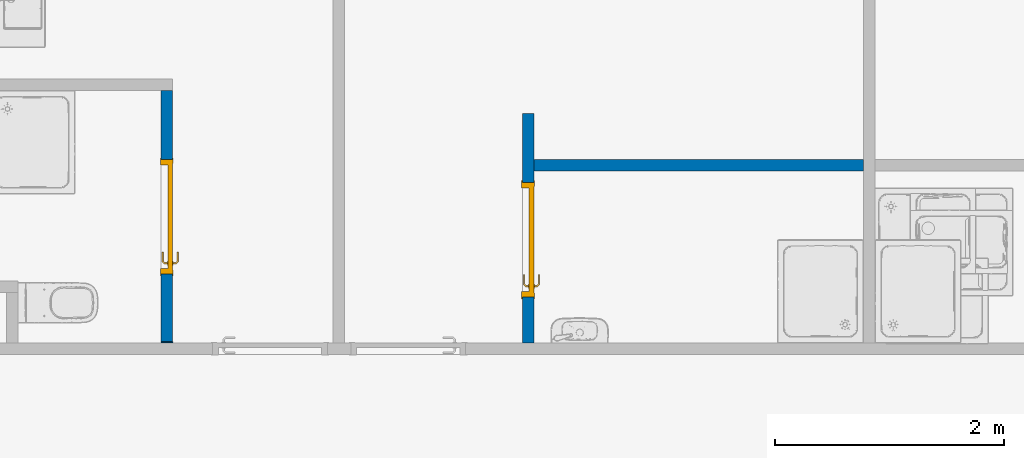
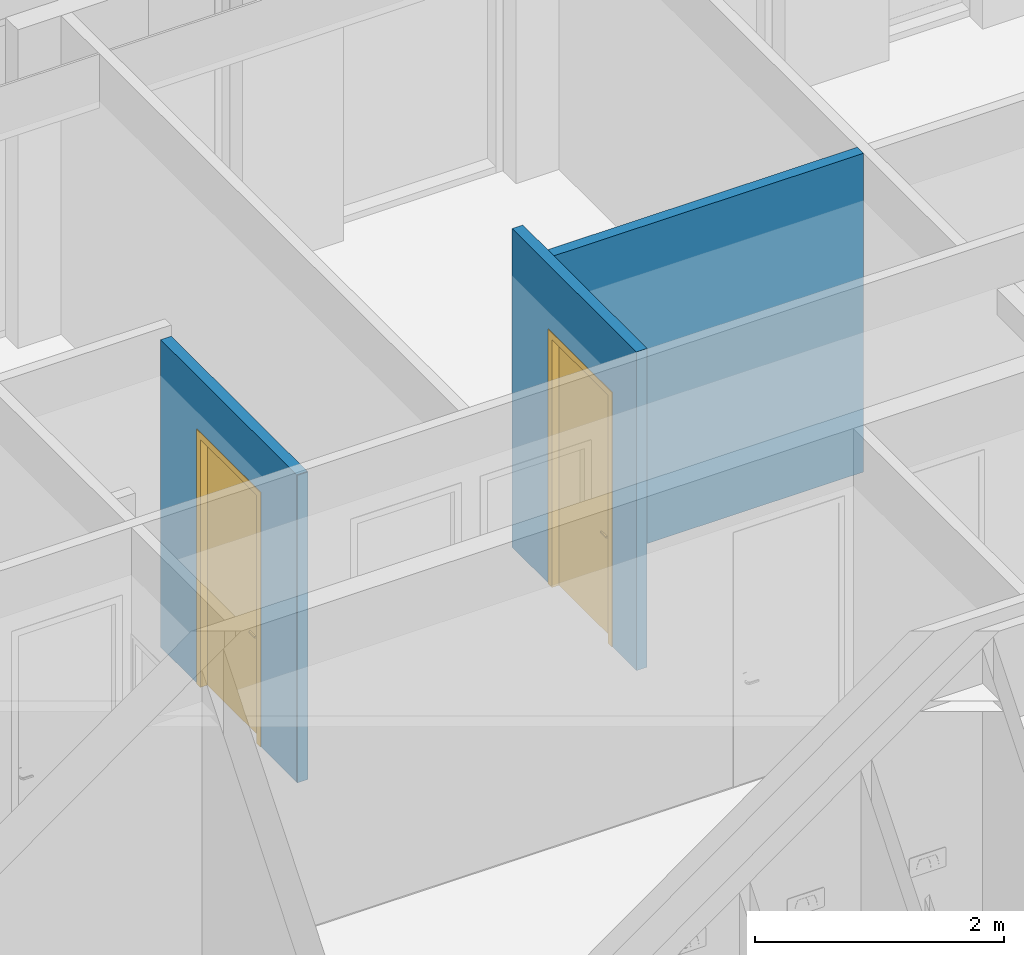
# One storey, part 123 of 240: 4 walls, 2 doors, 2 openings.
"""IFC2X3 building model written with IfcOpenShell, lengths in centimetres."""

from ifc_helpers import new_model, entity, si_unit, converted_unit, derived_unit, direction, frame, frame_2d, origin, place, context, subcontext, project, spatial, polyline, rectangle, extrude, clip, bounded_halfspace, faceted_brep, source, transform, mapped, material, material_list, layer, layer_set, layer_usage, type_object, type_shapes, element, fill, save


model = new_model("IFC2X3")

# Units and contexts
model_context = context("Model", 3, precision=0.001, world=origin(), true_north=direction((6.12303176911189e-17, 1.0)))
body_context = subcontext(model_context, "Body", "Model", "MODEL_VIEW")
ifc_project = project(units=[si_unit("LENGTHUNIT", "METRE", prefix="CENTI"), si_unit("AREAUNIT", "SQUARE_METRE"), si_unit("VOLUMEUNIT", "CUBIC_METRE"), converted_unit("PLANEANGLEUNIT", "DEGREE", entity("IfcRatioMeasure", 0.0174532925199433), si_unit("PLANEANGLEUNIT", "RADIAN"), dimensions=[0, 0, 0, 0, 0, 0, 0]), si_unit("MASSUNIT", "GRAM", prefix="KILO"), derived_unit("MASSDENSITYUNIT", [(si_unit("MASSUNIT", "GRAM", prefix="KILO"), 1), (si_unit("LENGTHUNIT", "METRE"), -3)]), si_unit("TIMEUNIT", "SECOND"), si_unit("FREQUENCYUNIT", "HERTZ"), si_unit("THERMODYNAMICTEMPERATUREUNIT", "DEGREE_CELSIUS"), derived_unit("THERMALTRANSMITTANCEUNIT", [(si_unit("MASSUNIT", "GRAM", prefix="KILO"), 1), (si_unit("THERMODYNAMICTEMPERATUREUNIT", "KELVIN"), -1), (si_unit("TIMEUNIT", "SECOND"), -3)]), derived_unit("VOLUMETRICFLOWRATEUNIT", [(si_unit("LENGTHUNIT", "METRE"), 3), (si_unit("TIMEUNIT", "SECOND"), -1)]), si_unit("ELECTRICCURRENTUNIT", "AMPERE"), si_unit("ELECTRICVOLTAGEUNIT", "VOLT"), si_unit("POWERUNIT", "WATT"), si_unit("FORCEUNIT", "NEWTON", prefix="KILO"), si_unit("ILLUMINANCEUNIT", "LUX"), si_unit("LUMINOUSFLUXUNIT", "LUMEN"), si_unit("LUMINOUSINTENSITYUNIT", "CANDELA"), derived_unit("USERDEFINED", [(si_unit("MASSUNIT", "GRAM", prefix="KILO"), -1), (si_unit("LENGTHUNIT", "METRE"), -2), (si_unit("TIMEUNIT", "SECOND"), 3), (si_unit("LUMINOUSFLUXUNIT", "LUMEN"), 1)]), derived_unit("LINEARVELOCITYUNIT", [(si_unit("LENGTHUNIT", "METRE"), 1), (si_unit("TIMEUNIT", "SECOND"), -1)]), si_unit("PRESSUREUNIT", "PASCAL"), derived_unit("USERDEFINED", [(si_unit("LENGTHUNIT", "METRE"), -2), (si_unit("MASSUNIT", "GRAM", prefix="KILO"), 1), (si_unit("TIMEUNIT", "SECOND"), -2)])], contexts=[model_context])

# Site, building, storey
site_placement = place(None, frame((-2781.94577612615, 7442.24238424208, 0.0)))
site = spatial("IfcSite", under=ifc_project, at=site_placement, Name="Default", CompositionType="ELEMENT")
building_placement = place(site_placement, origin())
building = spatial("IfcBuilding", under=site, at=building_placement, CompositionType="ELEMENT")
storey_placement = place(building_placement, origin())
storey = spatial("IfcBuildingStorey", under=building, at=storey_placement, Name="N00 - COO", CompositionType="ELEMENT", Elevation=0.0)

# Wall, opening, door
ifc_material_1 = material(Name="01 - Enduit/Plâtre")
ifc_layer_1 = layer(ifc_material_1, 1.3)
ifc_material_2 = material(Name="00 - Isolant")
ifc_layer_2 = layer(ifc_material_2, 7.4)
ifc_layer_3 = layer(ifc_material_1, 1.3)
ifc_layer_set = layer_set([ifc_layer_1, ifc_layer_2, ifc_layer_3], Name="Mur de base:06 - cloisons - Ba13 10cm")
ifc_layer_usage_1 = layer_usage(ifc_layer_set, "AXIS2", "NEGATIVE", 5.0)
wall_type = type_object("IfcWallType", Name="Mur de base:06 - cloisons - Ba13 10cm", PredefinedType="STANDARD", material=ifc_layer_set)
wall_1_placement = place(building_placement, frame((-9499.49987766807, -1530.0, 0.0), z_axis=(0.0, 0.0, 1.0), x_axis=(0.0, -1.0, 0.0)))
wall_1 = element("IfcWallStandardCase", 1, at=wall_1_placement, inside=storey, type_object=wall_type, material=ifc_layer_usage_1, Name="Mur de base:06 - cloisons - Ba13 10cm", ObjectType="Mur de base:06 - cloisons - Ba13 10cm", context=body_context, shape_type="SweptSolid", body=[
    extrude(rectangle(XDim=219.0, YDim=10.0000000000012, at=frame_2d((109.5, 0.0), x_axis=(-1.0, 0.0))), origin(), (0.0, 0.0, 1.0), 302.0),
])
opening_1_placement = place(wall_1_placement, frame((60.0, -5.0, 0.0)))
opening_1 = element("IfcOpeningElement", 2, at=opening_1_placement, cuts=wall_1, Name="Int. Simple:PP simple (0.93m x 2.50m):1", ObjectType="Opening", context=body_context, shape_type="SweptSolid", body=[
    extrude(rectangle(XDim=248.500000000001, YDim=99.9999999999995, at=frame_2d((124.250000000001, 49.9999999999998), x_axis=(1.0, 0.0))), frame((0.0, 0.0, 0.0), z_axis=(0.0, 1.0, 0.0), x_axis=(0.0, 0.0, 1.0)), (0.0, 0.0, 1.0), 10.0),
])
ifc_material_3 = material(Name="Finition Peinture - Blanc satiné")
ifc_material_4 = material(Name="Bois - Panneau de porte")
ifc_material_5 = material(Name="Bois - Cadre de porte")
ifc_material_list_1 = material_list([ifc_material_3, ifc_material_4, ifc_material_5])
ifc_material_list_2 = material_list([ifc_material_3, ifc_material_4, ifc_material_5])
door_style = type_object("IfcDoorStyle", Name="PP simple (0.93m x 2.50m)", ConstructionType="NOTDEFINED", OperationType="SINGLE_SWING_LEFT", ParameterTakesPrecedence=False, Sizeable=False, material=ifc_material_list_2)
shared_shape = source(origin(), body_context, "Body", "Brep", [
    faceted_brep([(10.5352761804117, -0.500000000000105, 86.6003983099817), (11.5000000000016, -0.500000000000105, 87.0), (11.5000000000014, -0.500000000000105, 108.0), (10.5352761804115, -0.500000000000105, 108.399601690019), (9.50000000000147, -0.500000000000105, 108.535898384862), (8.46472381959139, -0.500000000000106, 108.399601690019), (7.50000000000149, -0.500000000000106, 108.0), (7.50000000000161, -0.500000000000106, 87.0), (8.46472381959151, -0.500000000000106, 86.6003983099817), (9.50000000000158, -0.500000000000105, 86.464101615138), (10.5352761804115, 0.0, 108.399601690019), (11.5000000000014, 0.0, 108.0), (11.5000000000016, 0.0, 87.0), (10.5352761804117, 0.0, 86.6003983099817), (9.50000000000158, 0.0, 86.464101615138), (8.46472381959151, 0.0, 86.6003983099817), (7.50000000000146, 0.0, 87.0), (7.50000000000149, 0.0, 108.0), (8.46472381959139, 0.0, 108.399601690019), (9.50000000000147, 0.0, 108.535898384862)], [[[0, 1, 2, 3, 4, 5, 6, 7, 8, 9]], [[10, 11, 12, 13, 14, 15, 16, 17, 18, 19]], [[16, 15, 8, 7]], [[8, 15, 14, 9]], [[14, 13, 0, 9]], [[13, 12, 1, 0]], [[2, 1, 12, 11]], [[11, 10, 3, 2]], [[3, 10, 19, 4]], [[19, 18, 5, 4]], [[18, 17, 6, 5]], [[7, 6, 17, 16]]]),
    faceted_brep([(10.5352761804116, 4.0, 86.6003983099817), (11.5000000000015, 4.0, 87.0), (11.5000000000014, 4.0, 108.0), (10.5352761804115, 4.0, 108.399601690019), (9.50000000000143, 4.0, 108.535898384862), (8.46472381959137, 4.0, 108.399601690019), (7.50000000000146, 4.0, 108.0), (7.50000000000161, 4.0, 87.0), (8.46472381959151, 4.0, 86.6003983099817), (9.50000000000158, 4.0, 86.464101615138), (10.5352761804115, 4.49999999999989, 108.399601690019), (11.5000000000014, 4.49999999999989, 108.0), (11.5000000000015, 4.49999999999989, 87.0), (10.5352761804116, 4.49999999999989, 86.6003983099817), (9.50000000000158, 4.49999999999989, 86.464101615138), (8.46472381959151, 4.49999999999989, 86.6003983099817), (7.50000000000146, 4.49999999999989, 87.0), (7.50000000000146, 4.49999999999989, 108.0), (8.46472381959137, 4.49999999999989, 108.399601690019), (9.50000000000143, 4.49999999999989, 108.535898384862)], [[[0, 1, 2, 3, 4, 5, 6, 7, 8, 9]], [[10, 11, 12, 13, 14, 15, 16, 17, 18, 19]], [[11, 10, 3, 2]], [[3, 10, 19, 4]], [[19, 18, 5, 4]], [[18, 17, 6, 5]], [[7, 6, 17, 16]], [[16, 15, 8, 7]], [[8, 15, 14, 9]], [[14, 13, 0, 9]], [[13, 12, 1, 0]], [[2, 1, 12, 11]]]),
    faceted_brep([(9.29747013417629, -0.500000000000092, 100.778044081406), (9.70252986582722, -0.50000000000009, 100.778044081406), (10.1000000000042, -0.500000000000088, 100.699999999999), (10.1000000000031, -0.500000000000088, 99.3000000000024), (9.7025298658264, -0.50000000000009, 99.2219559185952), (9.29747013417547, -0.500000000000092, 99.221955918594), (8.8999999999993, -0.500000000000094, 99.2999999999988), (8.89999999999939, -0.500000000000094, 100.7), (8.89999999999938, -3.26509507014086, 100.7), (9.29747013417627, -3.10045754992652, 100.778044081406), (10.9023585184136, -4.70534593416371, 100.778044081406), (11.0701397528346, -4.30028620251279, 100.778044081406), (9.7025298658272, -2.93267631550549, 100.778044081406), (10.1000000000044, -2.76803879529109, 100.7), (10.1000000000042, -2.76803879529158, 99.3000000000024), (9.7025298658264, -2.93267631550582, 99.2219559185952), (11.0701397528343, -4.30028620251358, 99.2219559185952), (10.9023585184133, -4.70534593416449, 99.221955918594), (9.29747013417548, -3.10045754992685, 99.221955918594), (8.89999999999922, -3.26509507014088, 99.2999999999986), (10.7377209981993, -5.10281606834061, 100.7), (11.2347772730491, -3.90281606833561, 100.7), (11.2347772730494, -3.90281606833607, 99.3000000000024), (10.7377209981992, -5.10281606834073, 99.2999999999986), (19.5018640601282, -5.10281606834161, 99.2999999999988), (19.5018640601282, -4.70534593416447, 99.221955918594), (19.5018640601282, -4.30028620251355, 99.2219559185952), (19.5018640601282, -3.9028160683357, 99.3000000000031), (19.5018640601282, -3.90281606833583, 100.7), (19.5018640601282, -4.30028620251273, 100.778044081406), (19.5018640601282, -4.70534593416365, 100.778044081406), (19.5018640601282, -5.10281606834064, 100.699999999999), (14.7307697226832, -5.10281606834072, 100.7), (15.2860019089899, -4.5028160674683, 100.78786867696), (15.3683206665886, -3.9028160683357, 100.7), (15.3683206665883, -3.9028160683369, 99.3000000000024), (15.2860018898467, -4.50281607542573, 99.2121313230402), (14.7307700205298, -5.10281606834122, 99.2999999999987)], [[[0, 1, 2, 3, 4, 5, 6, 7]], [[8, 9, 0, 7]], [[9, 10, 11, 12, 1, 0]], [[12, 13, 2, 1]], [[3, 2, 13, 14]], [[14, 15, 4, 3]], [[15, 16, 17, 18, 5, 4]], [[18, 19, 6, 5]], [[7, 6, 19, 8]], [[20, 10, 9, 8]], [[11, 21, 13, 12]], [[14, 13, 21, 22]], [[22, 16, 15, 14]], [[17, 23, 19, 18]], [[8, 19, 23, 20]], [[24, 25, 26, 27, 28, 29, 30, 31]], [[32, 30, 33]], [[31, 30, 32]], [[10, 20, 32]], [[33, 34, 11]], [[21, 11, 34]], [[34, 29, 28]], [[30, 29, 33]], [[29, 34, 33]], [[10, 32, 33]], [[10, 33, 11]], [[22, 21, 34, 28, 27, 35]], [[35, 26, 36]], [[37, 36, 25]], [[22, 35, 16]], [[35, 27, 26]], [[24, 37, 25]], [[23, 17, 37]], [[37, 17, 36]], [[17, 16, 36]], [[16, 35, 36]], [[25, 36, 26]], [[20, 23, 37, 24, 31, 32]]]),
    faceted_brep([(9.29747013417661, 4.49999999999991, 100.778044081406), (8.89999999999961, 4.4999999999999, 100.7), (8.89999999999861, 4.4999999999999, 99.2999999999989), (9.29747013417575, 4.49999999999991, 99.221955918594), (9.70252986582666, 4.49999999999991, 99.2219559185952), (10.1000000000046, 4.49999999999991, 99.3000000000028), (10.1000000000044, 4.49999999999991, 100.7), (9.70252986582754, 4.49999999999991, 100.778044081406), (10.1000000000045, 6.7485204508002, 99.3000000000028), (10.1000000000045, 6.74852045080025, 100.7), (9.70252986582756, 6.91315797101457, 100.778044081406), (11.083890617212, 8.29451872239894, 100.778044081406), (10.916109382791, 8.69957845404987, 100.778044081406), (9.29747013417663, 7.0809392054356, 100.778044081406), (8.89999999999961, 7.24557672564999, 100.7), (8.89999999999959, 7.2455767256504, 99.2999999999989), (9.29747013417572, 7.08093920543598, 99.221955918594), (10.9161093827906, 8.69957845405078, 99.221955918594), (11.0838906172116, 8.29451872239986, 99.2219559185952), (9.70252986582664, 6.91315797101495, 99.2219559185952), (11.2485281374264, 7.89704858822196, 99.3000000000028), (11.2485281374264, 7.89704858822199, 100.7), (10.7514718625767, 9.09704858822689, 100.7), (10.7514718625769, 9.0970485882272, 99.2999999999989), (19.5045783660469, 7.89704858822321, 99.3000000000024), (19.5045783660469, 8.29451872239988, 99.2219559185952), (19.5045783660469, 8.6995784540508, 99.221955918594), (19.5045783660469, 9.09704858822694, 99.2999999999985), (19.5045783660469, 9.09704858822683, 100.7), (19.5045783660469, 8.69957845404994, 100.778044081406), (19.5045783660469, 8.29451872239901, 100.778044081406), (19.5045783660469, 7.89704858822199, 100.7), (15.3765520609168, 7.89704858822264, 99.3000000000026), (15.3765532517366, 7.89704858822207, 100.7), (15.294234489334, 8.49704858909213, 100.78786867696), (14.7445205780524, 9.09704858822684, 100.7), (14.7445204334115, 9.09704858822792, 99.2999999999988), (15.2942345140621, 8.49704858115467, 99.2121313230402)], [[[0, 1, 2, 3, 4, 5, 6, 7]], [[6, 5, 8, 9]], [[9, 10, 7, 6]], [[10, 11, 12, 13, 0, 7]], [[13, 14, 1, 0]], [[2, 1, 14, 15]], [[15, 16, 3, 2]], [[16, 17, 18, 19, 4, 3]], [[19, 8, 5, 4]], [[9, 8, 20, 21]], [[21, 11, 10, 9]], [[12, 22, 14, 13]], [[15, 14, 22, 23]], [[23, 17, 16, 15]], [[18, 20, 8, 19]], [[24, 25, 26, 27, 28, 29, 30, 31]], [[21, 20, 32, 24, 31, 33]], [[33, 30, 34]], [[35, 34, 29]], [[21, 33, 11]], [[33, 31, 30]], [[28, 35, 29]], [[22, 12, 35]], [[35, 12, 34]], [[12, 11, 34]], [[11, 33, 34]], [[29, 34, 30]], [[22, 35, 28, 27, 36, 23]], [[36, 26, 37]], [[27, 26, 36]], [[17, 23, 36]], [[37, 32, 18]], [[20, 18, 32]], [[32, 25, 24]], [[26, 25, 37]], [[25, 32, 37]], [[17, 36, 37]], [[17, 37, 18]]]),
    faceted_brep([(3.50000000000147, 4.0, 245.0), (96.5000000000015, 4.0, 245.0), (96.5000000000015, 4.0, 0.0), (3.50000000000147, 4.0, 0.0), (3.50000000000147, 0.0, 245.0), (3.50000000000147, 0.0, 0.0), (96.5000000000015, 0.0, 0.0), (96.5000000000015, 0.0, 245.0)], [[[0, 1, 2, 3]], [[4, 5, 6, 7]], [[1, 0, 4, 7]], [[2, 1, 7, 6]], [[3, 2, 6, 5]], [[0, 3, 5, 4]]]),
    faceted_brep([(0.0, 10.0, 0.0), (-1.50000000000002, 10.0, 0.0), (-1.50000000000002, 10.5000000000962, 0.0), (5.0, 10.5000000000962, 0.0), (5.0, 4.0, 0.0), (3.50000000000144, 4.0, 0.0), (3.50000000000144, -0.500000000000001, 0.0), (-1.50000000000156, -0.500000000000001, 0.0), (-1.50000000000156, 0.0, 0.0), (0.0, 0.0, 0.0), (0.0, 0.0, 248.500000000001), (0.0, 10.0, 248.500000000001), (100.0, 10.0, 248.500000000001), (100.0, 10.0, 0.0), (101.5, 10.0, 0.0), (101.5, 10.0, 250.0), (-1.50000000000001, 10.0, 250.0), (5.0, 10.5000000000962, 243.5), (5.0, 4.0, 243.5), (95.0, 4.0, 243.5), (95.0, 4.0, 0.0), (96.499999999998, 4.0, 0.0), (96.499999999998, 4.0, 245.0), (3.50000000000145, 4.0, 245.0), (100.0, 0.0, 248.500000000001), (100.0, 0.0, 0.0), (101.500000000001, 0.0, 0.0), (101.500000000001, -0.500000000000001, 0.0), (96.499999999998, -0.500000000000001, 0.0), (95.0, 10.5000000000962, 0.0), (101.5, 10.5000000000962, 0.0), (95.0, 10.5000000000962, 243.5), (3.50000000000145, -0.500000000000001, 245.0), (96.499999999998, -0.500000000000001, 245.0), (101.500000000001, -0.500000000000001, 250.0), (-1.50000000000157, -0.500000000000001, 250.0), (-1.50000000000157, 0.0, 250.0), (101.500000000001, 0.0, 250.0), (-1.50000000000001, 10.5000000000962, 250.0), (101.5, 10.5000000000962, 250.0)], [[[0, 1, 2, 3, 4, 5, 6, 7, 8, 9]], [[0, 9, 10, 11]], [[1, 0, 11, 12, 13, 14, 15, 16]], [[3, 17, 18, 4]], [[5, 4, 18, 19, 20, 21, 22, 23]], [[12, 24, 25, 13]], [[13, 25, 26, 27, 28, 21, 20, 29, 30, 14]], [[19, 31, 29, 20]], [[11, 10, 24, 12]], [[18, 17, 31, 19]], [[5, 23, 32, 6]], [[7, 6, 32, 33, 28, 27, 34, 35]], [[8, 7, 35, 36]], [[9, 8, 36, 37, 26, 25, 24, 10]], [[2, 1, 16, 38]], [[3, 2, 38, 39, 30, 29, 31, 17]], [[33, 22, 21, 28]], [[37, 34, 27, 26]], [[39, 15, 14, 30]], [[32, 23, 22, 33]], [[36, 35, 34, 37]], [[38, 16, 15, 39]]]),
])
type_shapes(door_style, [shared_shape])
door_1_placement = place(opening_1_placement, frame((100.0, 10.0, 0.0), z_axis=(0.0, 0.0, 1.0), x_axis=(-1.0, 0.0, 0.0)))
door_1 = element("IfcDoor", 3, at=door_1_placement, inside=storey, type_object=door_style, material=ifc_material_list_1, Name="Int. Simple:PP simple (0.93m x 2.50m)", ObjectType="Int. Simple:PP simple (0.93m x 2.50m)", OverallHeight=248.500000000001, OverallWidth=99.9999999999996, context=body_context, shape_type="MappedRepresentation", body=[
    mapped(shared_shape, transform((0.0, 0.0, 0.0), scale=1.0)),
])
fill(opening_1, door_1)

# Walls
ifc_layer_usage_2 = layer_usage(ifc_layer_set, "AXIS2", "NEGATIVE", 5.0)
wall_2_placement = place(building_placement, frame((-9179.49987766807, -1595.0, 0.0)))
element("IfcWallStandardCase", 4, at=wall_2_placement, inside=storey, type_object=wall_type, material=ifc_layer_usage_2, Name="Mur de base:06 - cloisons - Ba13 10cm", ObjectType="Mur de base:06 - cloisons - Ba13 10cm", context=body_context, shape_type="Clipping", body=[
    clip(extrude(rectangle(XDim=287.500000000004, YDim=9.99999999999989, at=frame_2d((143.750000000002, -4.17443857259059e-14), x_axis=(-1.0, 0.0))), origin(), (0.0, 0.0, 1.0), 313.0), bounded_halfspace(frame((0.0, -5.0, 313.0)), False, frame((0.0, -5.0, 313.0)), polyline([(0.0, 0.0), (287.500000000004, 0.0), (287.500000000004, 10.0), (0.0, 10.0), (0.0, 0.0)]))),
])
ifc_layer_usage_3 = layer_usage(ifc_layer_set, "AXIS2", "NEGATIVE", 5.0)
wall_3_placement = place(building_placement, frame((-9499.49987766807, -1749.0, 0.0), z_axis=(0.0, 0.0, 1.0), x_axis=(0.0, -1.0, 0.0)))
element("IfcWallStandardCase", 5, at=wall_3_placement, inside=storey, type_object=wall_type, material=ifc_layer_usage_3, Name="Mur de base:06 - cloisons - Ba13 10cm", ObjectType="Mur de base:06 - cloisons - Ba13 10cm", context=body_context, shape_type="SweptSolid", body=[
    extrude(rectangle(XDim=1.00000000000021, YDim=10.0000000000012, at=frame_2d((0.500000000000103, 0.0), x_axis=(-1.0, 0.0))), origin(), (0.0, 0.0, 1.0), 302.0),
])

# Wall, opening, door
ifc_layer_usage_4 = layer_usage(ifc_layer_set, "AXIS2", "NEGATIVE", 5.0)
wall_4_placement = place(building_placement, frame((-9184.49987766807, -1750.0, 0.0), z_axis=(0.0, 0.0, 1.0), x_axis=(0.0, 1.0, 0.0)))
wall_4 = element("IfcWallStandardCase", 6, at=wall_4_placement, inside=storey, type_object=wall_type, material=ifc_layer_usage_4, Name="Mur de base:06 - cloisons - Ba13 10cm", ObjectType="Mur de base:06 - cloisons - Ba13 10cm", context=body_context, shape_type="Clipping", body=[
    clip(extrude(rectangle(XDim=200.0, YDim=10.0000000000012, at=frame_2d((100.0, 0.0), x_axis=(-1.0, 0.0))), origin(), (0.0, 0.0, 1.0), 313.0), bounded_halfspace(frame((0.0, -5.0, 313.0), z_axis=(0.0, 0.0, 1.0), x_axis=(0.0, -1.0, 0.0)), False, frame((0.0, -5.0, 313.0)), polyline([(0.0, 0.0), (150.0, 0.0), (160.0, 0.0), (200.0, 0.0), (200.0, 10.0), (0.0, 10.0), (0.0, 0.0)]))),
])
opening_2_placement = place(wall_4_placement, frame((140.0, 5.0, 0.0)))
opening_2 = element("IfcOpeningElement", 7, at=opening_2_placement, cuts=wall_4, Name="Int. Simple:PP simple (0.93m x 2.50m):1", ObjectType="Opening", context=body_context, shape_type="SweptSolid", body=[
    extrude(rectangle(XDim=248.500000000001, YDim=99.9999999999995, at=frame_2d((124.250000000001, 49.9999999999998), x_axis=(1.0, 0.0))), frame((0.0, 0.0, 0.0), z_axis=(0.0, -1.0, 0.0), x_axis=(0.0, 0.0, 1.0)), (0.0, 0.0, 1.0), 10.0),
])
ifc_material_list_3 = material_list([ifc_material_3, ifc_material_4, ifc_material_5])
door_2_placement = place(opening_2_placement, frame((-100.0, -10.0, 0.0)))
door_2 = element("IfcDoor", 8, at=door_2_placement, inside=storey, type_object=door_style, material=ifc_material_list_3, Name="Int. Simple:PP simple (0.93m x 2.50m)", ObjectType="Int. Simple:PP simple (0.93m x 2.50m)", OverallHeight=248.500000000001, OverallWidth=99.9999999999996, context=body_context, shape_type="MappedRepresentation", body=[
    mapped(shared_shape, transform((0.0, 0.0, 0.0), scale=1.0)),
])
fill(opening_2, door_2)

save(model, "model.ifc")
